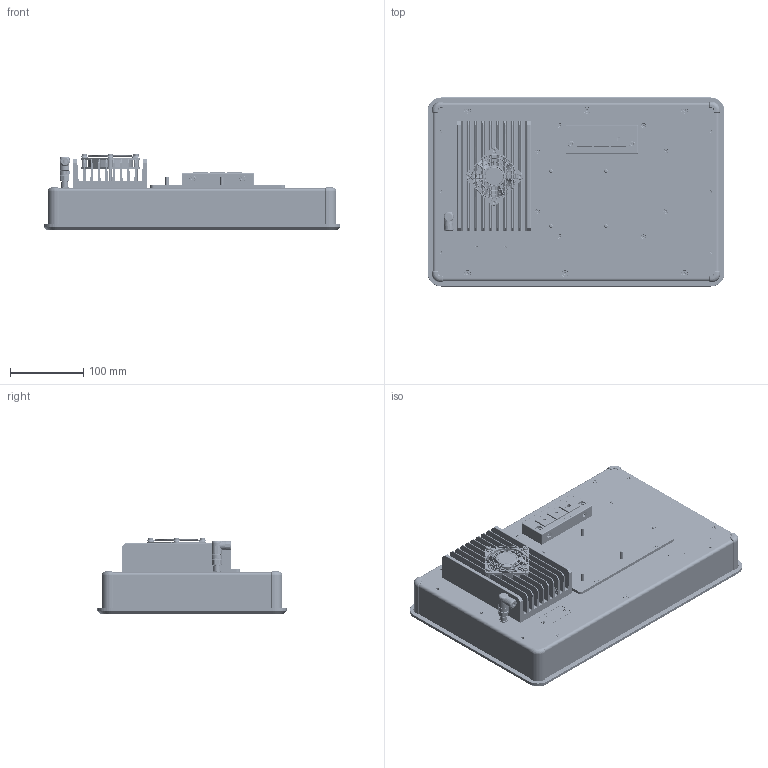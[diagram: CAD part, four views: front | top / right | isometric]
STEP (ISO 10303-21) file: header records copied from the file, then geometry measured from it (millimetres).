
FILE_DESCRIPTION(/* description */ (''),/* implementation_level */ '2;1');
FILE_NAME(/* name */ 'D:\Modelle vereinfacht\notion.D3\15,6 Zoll\778-41962-00\778-41962-00_EXTERN.stp',/* time_stamp */ '2025-07-31T13:37:50+02:00',/* author */ ('Blessing'),/* organization */ (''),/* preprocessor_version */ 'ST-DEVELOPER v18.1',/* originating_system */ 'Autodesk Inventor 2021',/* authorisation */ '');
FILE_SCHEMA (('AUTOMOTIVE_DESIGN { 1 0 10303 214 3 1 1 }'));
Products named in the file (6): Baugruppe36; Baugruppe35_Shrinkwrap_1; Baugruppe23_Shrinkwrap_1; Baugruppe18_Shrinkwrap_1; 778-90184_IAM_000_Shrinkwrap_2; 64-025-081_IPT_Extern
Assembly tree (5 placements, depth 2):
  Baugruppe36
    Baugruppe35_Shrinkwrap_1
    Baugruppe23_Shrinkwrap_1
    Baugruppe18_Shrinkwrap_1
    778-90184_IAM_000_Shrinkwrap_2
    64-025-081_IPT_Extern
Bounding box: 404.9 x 257.8 x 103.1 mm (x, y, z)
Volume: 5489380.9 mm3; surface area: 754150.9 mm2
Topology: 32 solids, 37 shells, 10731 faces, 29532 edges, 19240 vertices
Faces by surface type: plane 6704, cylinder 2259, bspline 1066, cone 549, torus 108, sphere 45
Full cylindrical faces by diameter (mm): 0.4 x36, 0.457 x1, 0.5 x8, 1 x3, 1.1 x3, 1.2 x30, 1.4 x3, 2.156 x2, 2.459 x24, 2.794 x2, 2.8 x2, 3 x23, 3.01 x1, 3.242 x10, 3.5 x20, 4 x10, 4.134 x2, 4.22 x8, 4.3 x12, 4.5 x12, 4.7 x2, 4.767 x6, 5 x13, 5.38 x6, 5.4 x6, 5.5 x6, 5.54 x24, 5.6 x1, 5.7 x1, 5.8 x1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
Entity records: 400247 total; most frequent: CARTESIAN_POINT 122493, ORIENTED_EDGE 58974, DIRECTION 50163, EDGE_CURVE 29488, LINE 20899, VECTOR 20899, VERTEX_POINT 19268, AXIS2_PLACEMENT_3D 14632
